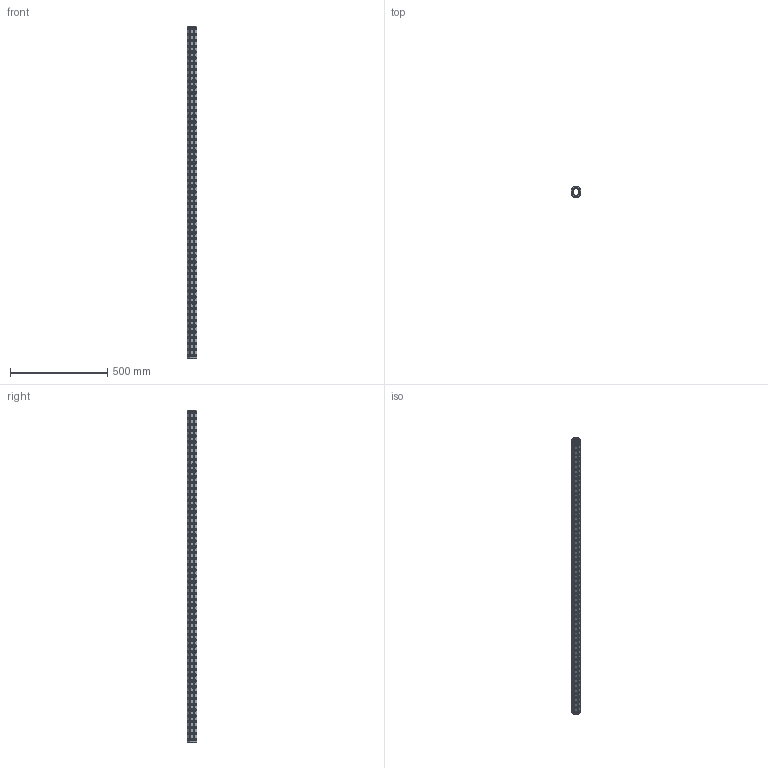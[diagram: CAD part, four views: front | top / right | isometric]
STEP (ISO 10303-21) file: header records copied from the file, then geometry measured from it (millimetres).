
FILE_DESCRIPTION(('CATIA V5 STEP Exchange'),'2;1');
FILE_NAME('U:\Room\唐宝山\EGT002\46-01-010286-01-EGT002-1708.stp','2021-08-24T01:35:29+00:00',('none'),('none'),'CATIA Version 5 Release 21 GA (IN-10)','CATIA V5 STEP AP203','none');
FILE_SCHEMA(('CONFIG_CONTROL_DESIGN'));
Products named in the file (1): 46-01-010286-01-EGT002-1708
Bounding box: 50 x 50 x 1708 mm (x, y, z)
Volume: 1216899.1 mm3; surface area: 586946.1 mm2
Topology: 1 solids, 1 shells, 2364 faces, 6516 edges, 4040 vertices
Faces by surface type: cone 1368, cylinder 970, plane 26
Entity records: 101823 total; most frequent: CARTESIAN_POINT 45146, ORIENTED_EDGE 13032, DIRECTION 8916, EDGE_CURVE 6516, VERTEX_POINT 4040, AXIS2_PLACEMENT_3D 4029, EDGE_LOOP 3164, VECTOR 2524
